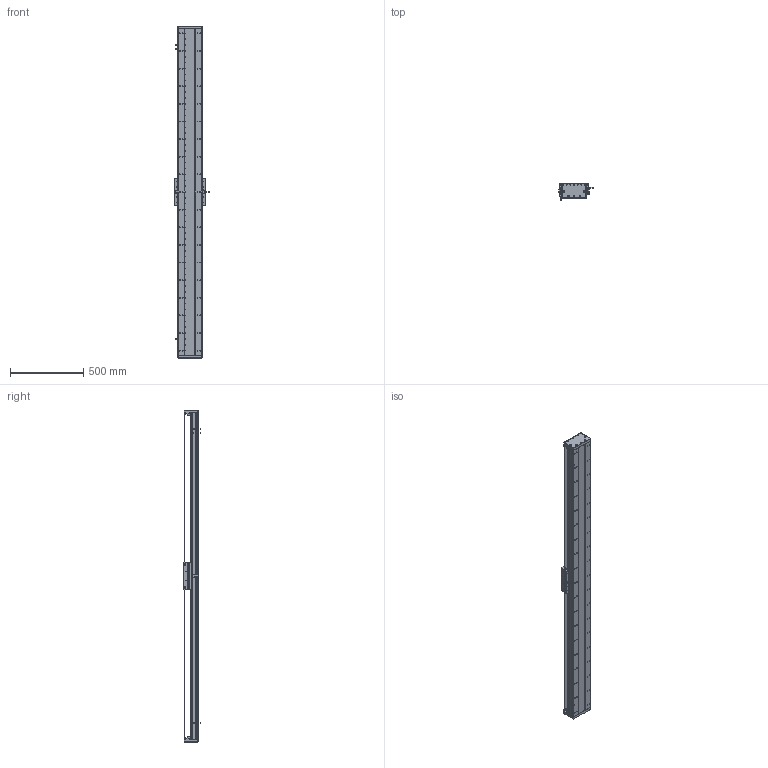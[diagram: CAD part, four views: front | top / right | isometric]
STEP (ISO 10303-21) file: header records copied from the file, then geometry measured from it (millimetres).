
FILE_DESCRIPTION (( 'STEP AP203' ), '1' );
FILE_NAME ('DA-C165-C2-T1980-C010-0.2 直线电机.STEP', '2023-05-11T07:44:35', ( '微软用户' ), ( '微软中国' ), 'SwSTEP 2.0', 'SolidWorks 2019', '' );
FILE_SCHEMA (( 'CONFIG_CONTROL_DESIGN' ));
Length unit declared in the file: millimetre
Products named in the file (18): 复件 DA165-GYP-00 光电感应片^DA-C165-C2-T-C010-0.2-N 直线电机; 复件 DA165-GDLK-00 钢带拉块^复件 CU165钢带组件_DA-C165-C2-T-C010-0.2-N 直线电机; 复件 DA95-HXJ-00 缓冲橡胶^DA-C165-C2-T-C010-0.2-N 直线电机; DA-C165-C2-T1980-C010-0.2 眻盄萇儂; 复件 六角薄螺母 M3^DA-C165-C2-T-C010-0.2-N 直线电机_GB_FASTENER_NUT_STNAB M3-C; 复件 DA165-GDYK-00 钢带压块^复件 CU165钢带组件_DA-C165-C2-T-C010-0.2-N 直线电机; 葩璃 CKM01-W075-TRL^DA-C165-C2-T-C010-0.2-N 眻盄萇儂; 复件 DMA-010-0.2 读数头^DA-C165-C2-T-C010-0.2-N 直线电机; 葩璃 DA95-GT-T-00^IU-CU165-L 菁釱絳寢_T; 复件 XD-U-02L 磁栅尺^DA-C165-C2-T-C010-0.2-N 直线电机_T; 葩璃 PM-T45^DA-C165-C2-T-C010-0.2-N 眻盄萇儂; 复件 CU165钢带组件^DA-C165-C2-T-C010-0.2-N 直线电机; 珨极趙賑雄怢啣wf-C2; IU-CU165-L-00 菁釱_L2220; IU-CU165-L 菁釱絳寢; 复件 CKM02-W075-C1C2-TP-3.0 一体电机-C2^DA-C165-C2-T-C010-0.2-N 直线电机; 复件 DA165-GD-1860-002-00 钢带盖板^复件 CU165钢带组件_DA-C165-C2-T-C010-0.2-N 直线电机; 复件 DA165-GD-DG-H-00 端盖^复件 CU165钢带组件_DA-C165-C2-T-C010-0.2-N 直线电机
Assembly tree (33 placements, depth 3):
  DA-C165-C2-T1980-C010-0.2 眻盄萇儂
    IU-CU165-L 菁釱絳寢
      IU-CU165-L-00 菁釱_L2220
      葩璃 DA95-GT-T-00^IU-CU165-L 菁釱絳寢_T  x4
    复件 XD-U-02L 磁栅尺^DA-C165-C2-T-C010-0.2-N 直线电机_T
    葩璃 PM-T45^DA-C165-C2-T-C010-0.2-N 眻盄萇儂  x3
    葩璃 CKM01-W075-TRL^DA-C165-C2-T-C010-0.2-N 眻盄萇儂
    复件 CU165钢带组件^DA-C165-C2-T-C010-0.2-N 直线电机
      复件 DA165-GD-DG-H-00 端盖^复件 CU165钢带组件_DA-C165-C2-T-C010-0.2-N 直线电机  x2
      复件 DA165-GDYK-00 钢带压块^复件 CU165钢带组件_DA-C165-C2-T-C010-0.2-N 直线电机  x2
      复件 DA165-GD-1860-002-00 钢带盖板^复件 CU165钢带组件_DA-C165-C2-T-C010-0.2-N 直线电机
      复件 DA165-GDLK-00 钢带拉块^复件 CU165钢带组件_DA-C165-C2-T-C010-0.2-N 直线电机  x2
    复件 DA95-HXJ-00 缓冲橡胶^DA-C165-C2-T-C010-0.2-N 直线电机  x4
    复件 DA165-GYP-00 光电感应片^DA-C165-C2-T-C010-0.2-N 直线电机
    复件 DMA-010-0.2 读数头^DA-C165-C2-T-C010-0.2-N 直线电机
    复件 CKM02-W075-C1C2-TP-3.0 一体电机-C2^DA-C165-C2-T-C010-0.2-N 直线电机
    复件 六角薄螺母 M3^DA-C165-C2-T-C010-0.2-N 直线电机_GB_FASTENER_NUT_STNAB M3-C  x6
    珨极趙賑雄怢啣wf-C2
Bounding box: 233 x 111.45 x 2260 mm (x, y, z)
Volume: 12847384.9 mm3; surface area: 3832643.8 mm2
Topology: 70 solids, 70 shells, 3711 faces, 10765 edges, 6857 vertices
Faces by surface type: cylinder 2141, plane 1090, cone 430, torus 46, sphere 4
Entity records: 122565 total; most frequent: CARTESIAN_POINT 32505, ORIENTED_EDGE 18702, DIRECTION 18157, EDGE_CURVE 9351, AXIS2_PLACEMENT_3D 6921, VERTEX_POINT 6093, LINE 4315, VECTOR 4315
